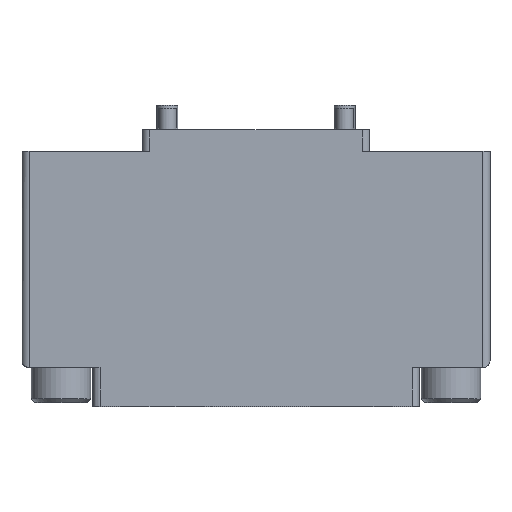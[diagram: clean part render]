
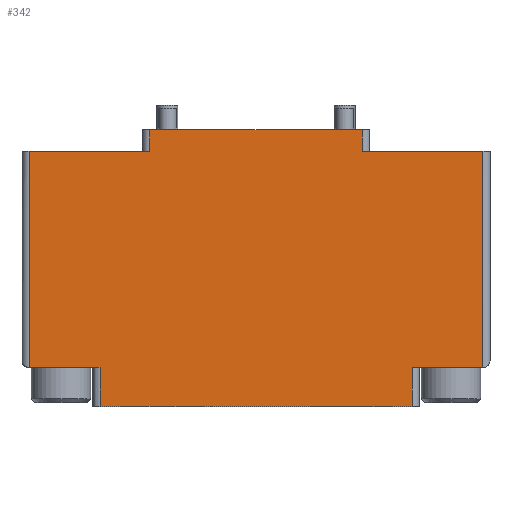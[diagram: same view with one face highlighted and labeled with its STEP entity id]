
A CAD part, top view. The second image highlights one B-rep face of the part: STEP entity #342.
In plain terms, the highlighted planar face has unit normal (0, 0, 1).
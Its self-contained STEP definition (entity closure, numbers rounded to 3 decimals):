
#342=ADVANCED_FACE('',(#808),#809,.F.);
#808=FACE_OUTER_BOUND('',#1405,.T.);
#809=PLANE('',#1406);
#1405=EDGE_LOOP('',(#2345,#2346,#2347,#2348,#2349,#2350,#2351,#2352,#2353,#2354,#2355,#2356));
#1406=AXIS2_PLACEMENT_3D('',#2357,#2358,#2359);
#2345=ORIENTED_EDGE('',*,*,#3107,.T.);
#2346=ORIENTED_EDGE('',*,*,#3237,.T.);
#2347=ORIENTED_EDGE('',*,*,#3240,.F.);
#2348=ORIENTED_EDGE('',*,*,#3251,.T.);
#2349=ORIENTED_EDGE('',*,*,#3075,.T.);
#2350=ORIENTED_EDGE('',*,*,#3228,.T.);
#2351=ORIENTED_EDGE('',*,*,#3056,.T.);
#2352=ORIENTED_EDGE('',*,*,#3002,.T.);
#2353=ORIENTED_EDGE('',*,*,#3118,.F.);
#2354=ORIENTED_EDGE('',*,*,#3109,.T.);
#2355=ORIENTED_EDGE('',*,*,#3050,.T.);
#2356=ORIENTED_EDGE('',*,*,#3097,.T.);
#2357=CARTESIAN_POINT('',(16.0,-3.0,15.0));
#2358=DIRECTION('',(0.0,0.0,-1.0));
#2359=DIRECTION('',(0.0,-1.0,0.0));
#3002=EDGE_CURVE('',#3473,#3477,#3479,.T.);
#3050=EDGE_CURVE('',#3558,#3546,#3559,.T.);
#3056=EDGE_CURVE('',#3568,#3473,#3569,.T.);
#3075=EDGE_CURVE('',#3596,#3594,#3597,.T.);
#3097=EDGE_CURVE('',#3546,#3632,#3633,.T.);
#3107=EDGE_CURVE('',#3632,#3646,#3648,.T.);
#3109=EDGE_CURVE('',#3650,#3558,#3651,.T.);
#3118=EDGE_CURVE('',#3650,#3477,#3664,.T.);
#3228=EDGE_CURVE('',#3594,#3568,#3821,.T.);
#3237=EDGE_CURVE('',#3646,#3831,#3833,.T.);
#3240=EDGE_CURVE('',#3835,#3831,#3837,.T.);
#3251=EDGE_CURVE('',#3835,#3596,#3854,.T.);
#3473=VERTEX_POINT('',#4222);
#3477=VERTEX_POINT('',#4227);
#3479=LINE('',#4229,#4230);
#3546=VERTEX_POINT('',#4372);
#3558=VERTEX_POINT('',#4387);
#3559=LINE('',#4388,#4389);
#3568=VERTEX_POINT('',#4399);
#3569=LINE('',#4400,#4401);
#3594=VERTEX_POINT('',#4436);
#3596=VERTEX_POINT('',#4438);
#3597=LINE('',#4439,#4440);
#3632=VERTEX_POINT('',#4485);
#3633=LINE('',#4486,#4487);
#3646=VERTEX_POINT('',#4501);
#3648=LINE('',#4503,#4504);
#3650=VERTEX_POINT('',#4506);
#3651=LINE('',#4507,#4508);
#3664=LINE('',#4523,#4524);
#3821=LINE('',#4733,#4734);
#3831=VERTEX_POINT('',#4746);
#3833=LINE('',#4748,#4749);
#3835=VERTEX_POINT('',#4751);
#3837=LINE('',#4753,#4754);
#3854=LINE('',#4778,#4779);
#4222=CARTESIAN_POINT('',(-22.0,-33.5,15.0));
#4227=CARTESIAN_POINT('',(-22.0,-39.0,15.0));
#4229=CARTESIAN_POINT('',(-22.0,-39.0,15.0));
#4230=VECTOR('',#5149,1.0);
#4372=CARTESIAN_POINT('',(32.0,-33.5,15.0));
#4387=CARTESIAN_POINT('',(22.0,-33.5,15.0));
#4388=CARTESIAN_POINT('',(23.0,-33.5,15.0));
#4389=VECTOR('',#5219,1.0);
#4399=CARTESIAN_POINT('',(-32.0,-33.5,15.0));
#4400=CARTESIAN_POINT('',(-33.0,-33.5,15.0));
#4401=VECTOR('',#5230,1.0);
#4436=CARTESIAN_POINT('',(-32.0,-3.0,15.0));
#4438=CARTESIAN_POINT('',(-15.0,-3.0,15.0));
#4439=CARTESIAN_POINT('',(33.0,-3.0,15.0));
#4440=VECTOR('',#5250,1.0);
#4485=CARTESIAN_POINT('',(32.0,-3.0,15.0));
#4486=CARTESIAN_POINT('',(32.0,-3.0,15.0));
#4487=VECTOR('',#5279,1.0);
#4501=CARTESIAN_POINT('',(15.0,-3.0,15.0));
#4503=CARTESIAN_POINT('',(33.0,-3.0,15.0));
#4504=VECTOR('',#5299,1.0);
#4506=CARTESIAN_POINT('',(22.0,-39.0,15.0));
#4507=CARTESIAN_POINT('',(22.0,-33.5,15.0));
#4508=VECTOR('',#5300,1.0);
#4523=CARTESIAN_POINT('',(33.0,-39.0,15.0));
#4524=VECTOR('',#5315,1.0);
#4733=CARTESIAN_POINT('',(-32.0,-3.0,15.0));
#4734=VECTOR('',#5422,1.0);
#4746=CARTESIAN_POINT('',(15.0,0.0,15.0));
#4748=CARTESIAN_POINT('',(15.0,-3.0,15.0));
#4749=VECTOR('',#5431,1.0);
#4751=CARTESIAN_POINT('',(-15.0,0.0,15.0));
#4753=CARTESIAN_POINT('',(-16.0,0.0,15.0));
#4754=VECTOR('',#5435,1.0);
#4778=CARTESIAN_POINT('',(-15.0,-3.0,15.0));
#4779=VECTOR('',#5443,1.0);
#5149=DIRECTION('',(0.0,-1.0,0.0));
#5219=DIRECTION('',(1.0,0.0,0.0));
#5230=DIRECTION('',(1.0,0.0,0.0));
#5250=DIRECTION('',(-1.0,0.0,0.0));
#5279=DIRECTION('',(0.0,1.0,0.0));
#5299=DIRECTION('',(-1.0,0.0,0.0));
#5300=DIRECTION('',(0.0,1.0,0.0));
#5315=DIRECTION('',(-1.0,0.0,0.0));
#5422=DIRECTION('',(0.0,-1.0,0.0));
#5431=DIRECTION('',(0.0,1.0,0.0));
#5435=DIRECTION('',(1.0,0.0,0.0));
#5443=DIRECTION('',(0.0,-1.0,0.0));
